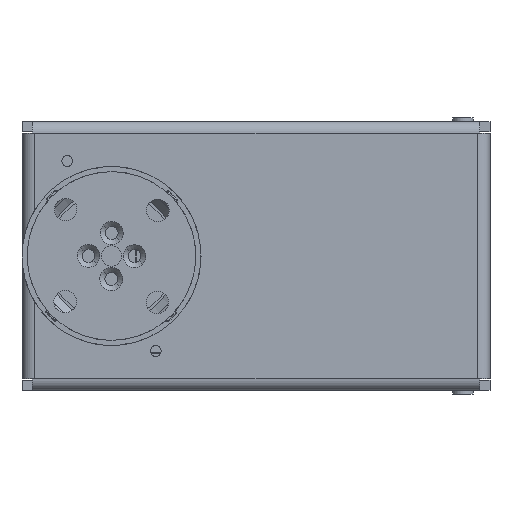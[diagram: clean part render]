
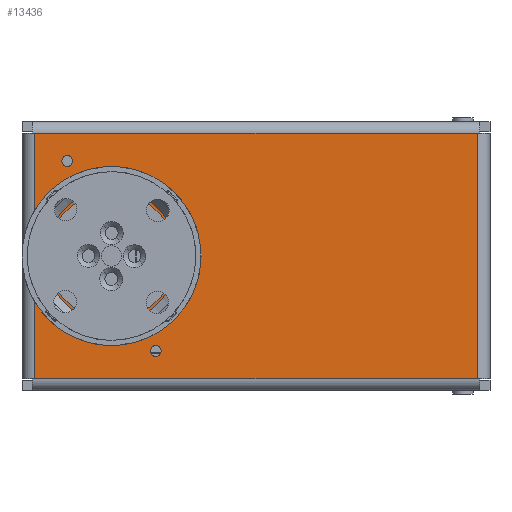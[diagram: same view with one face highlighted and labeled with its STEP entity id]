
A CAD part, front view. The second image highlights one B-rep face of the part: STEP entity #13436.
In plain terms, the highlighted planar face has unit normal (0, -1, 0).
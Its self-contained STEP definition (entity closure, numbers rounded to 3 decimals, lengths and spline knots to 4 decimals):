
#68 = DIRECTION ( 'NONE',  ( 0., 0., 1. ) ) ;
#430 = VECTOR ( 'NONE', #28864, 39.3701 ) ;
#1035 = CARTESIAN_POINT ( 'NONE',  ( 5.6299, -0.1181, -1.8898 ) ) ;
#1169 = DIRECTION ( 'NONE',  ( 0., 0., 1. ) ) ;
#1633 = LINE ( 'NONE', #41555, #42219 ) ;
#1684 = AXIS2_PLACEMENT_3D ( 'NONE', #2005, #22516, #56871 ) ;
#2005 = CARTESIAN_POINT ( 'NONE',  ( -0.6822, -0.1181, 1.4629 ) ) ;
#2506 = EDGE_CURVE ( 'NONE', #28388, #21093, #4943, .T. ) ;
#3972 = EDGE_CURVE ( 'NONE', #54396, #63184, #18047, .T. ) ;
#4943 = CIRCLE ( 'NONE', #24144, 0.9843 ) ;
#5409 = EDGE_CURVE ( 'NONE', #63184, #54396, #61061, .T. ) ;
#7023 = CARTESIAN_POINT ( 'NONE',  ( 0., -0.1181, -0.9843 ) ) ;
#7822 = DIRECTION ( 'NONE',  ( 0., 0., 1. ) ) ;
#9042 = ORIENTED_EDGE ( 'NONE', *, *, #45496, .T. ) ;
#9060 = VECTOR ( 'NONE', #56106, 39.3701 ) ;
#10022 = CARTESIAN_POINT ( 'NONE',  ( 0.6822, -0.1181, -1.5456 ) ) ;
#11432 = EDGE_LOOP ( 'NONE', ( #21468, #56686 ) ) ;
#11613 = EDGE_CURVE ( 'NONE', #62616, #60144, #52218, .T. ) ;
#12542 = VECTOR ( 'NONE', #14020, 39.3701 ) ;
#12666 = DIRECTION ( 'NONE',  ( 0., 0., 1. ) ) ;
#13436 = ADVANCED_FACE ( 'NONE', ( #27100, #62331, #13785, #33373 ), #64328, .F. ) ;
#13785 = FACE_BOUND ( 'NONE', #63598, .T. ) ;
#14020 = DIRECTION ( 'NONE',  ( 1., 0., 0. ) ) ;
#17490 = DIRECTION ( 'NONE',  ( 0., 1., 0. ) ) ;
#17567 = EDGE_LOOP ( 'NONE', ( #9042, #49754 ) ) ;
#17762 = ORIENTED_EDGE ( 'NONE', *, *, #39659, .T. ) ;
#18047 = CIRCLE ( 'NONE', #1684, 0.0827 ) ;
#19041 = CARTESIAN_POINT ( 'NONE',  ( 0., -0.1181, 0.9843 ) ) ;
#19097 = AXIS2_PLACEMENT_3D ( 'NONE', #26065, #61062, #1169 ) ;
#20113 = EDGE_CURVE ( 'NONE', #52049, #39178, #43389, .T. ) ;
#21093 = VERTEX_POINT ( 'NONE', #7023 ) ;
#21468 = ORIENTED_EDGE ( 'NONE', *, *, #3972, .T. ) ;
#22516 = DIRECTION ( 'NONE',  ( 0., 1., 0. ) ) ;
#22528 = CARTESIAN_POINT ( 'NONE',  ( 0.6822, -0.1181, -1.4629 ) ) ;
#22645 = DIRECTION ( 'NONE',  ( 0., 1., 0. ) ) ;
#24064 = CARTESIAN_POINT ( 'NONE',  ( 5.8268, -0.1181, 1.8898 ) ) ;
#24144 = AXIS2_PLACEMENT_3D ( 'NONE', #32269, #22645, #7822 ) ;
#24798 = EDGE_CURVE ( 'NONE', #25377, #38149, #32050, .T. ) ;
#25377 = VERTEX_POINT ( 'NONE', #48042 ) ;
#26065 = CARTESIAN_POINT ( 'NONE',  ( 0., -0.1181, 0. ) ) ;
#26870 = ORIENTED_EDGE ( 'NONE', *, *, #24798, .T. ) ;
#27100 = FACE_BOUND ( 'NONE', #11432, .T. ) ;
#28388 = VERTEX_POINT ( 'NONE', #19041 ) ;
#28665 = DIRECTION ( 'NONE',  ( 0., 1., 0. ) ) ;
#28864 = DIRECTION ( 'NONE',  ( -1., 0., 0. ) ) ;
#31776 = EDGE_LOOP ( 'NONE', ( #17762, #41756, #46403, #26870 ) ) ;
#32050 = LINE ( 'NONE', #44444, #12542 ) ;
#32269 = CARTESIAN_POINT ( 'NONE',  ( 0., -0.1181, 0. ) ) ;
#33146 = DIRECTION ( 'NONE',  ( 0., 1., 0. ) ) ;
#33373 = FACE_OUTER_BOUND ( 'NONE', #31776, .T. ) ;
#36528 = DIRECTION ( 'NONE',  ( 0., 0., -1. ) ) ;
#37944 = CARTESIAN_POINT ( 'NONE',  ( -0.6822, -0.1181, 1.4629 ) ) ;
#38149 = VERTEX_POINT ( 'NONE', #39501 ) ;
#39178 = VERTEX_POINT ( 'NONE', #53343 ) ;
#39409 = DIRECTION ( 'NONE',  ( 0., 1., 0. ) ) ;
#39501 = CARTESIAN_POINT ( 'NONE',  ( 5.6299, -0.1181, -1.8898 ) ) ;
#39659 = EDGE_CURVE ( 'NONE', #38149, #52049, #42602, .T. ) ;
#41555 = CARTESIAN_POINT ( 'NONE',  ( -1.1811, -0.1181, 1.8898 ) ) ;
#41733 = ORIENTED_EDGE ( 'NONE', *, *, #60824, .T. ) ;
#41756 = ORIENTED_EDGE ( 'NONE', *, *, #20113, .T. ) ;
#42219 = VECTOR ( 'NONE', #36528, 39.3701 ) ;
#42602 = LINE ( 'NONE', #1035, #9060 ) ;
#43389 = LINE ( 'NONE', #24064, #430 ) ;
#44444 = CARTESIAN_POINT ( 'NONE',  ( -1.378, -0.1181, -1.8898 ) ) ;
#44838 = CARTESIAN_POINT ( 'NONE',  ( 0., -0.1181, 0. ) ) ;
#44842 = AXIS2_PLACEMENT_3D ( 'NONE', #37944, #33146, #57885 ) ;
#45358 = EDGE_CURVE ( 'NONE', #39178, #25377, #1633, .T. ) ;
#45496 = EDGE_CURVE ( 'NONE', #60144, #62616, #56437, .T. ) ;
#46332 = AXIS2_PLACEMENT_3D ( 'NONE', #48516, #28665, #63656 ) ;
#46403 = ORIENTED_EDGE ( 'NONE', *, *, #45358, .T. ) ;
#47848 = CIRCLE ( 'NONE', #19097, 0.9843 ) ;
#48042 = CARTESIAN_POINT ( 'NONE',  ( -1.1811, -0.1181, -1.8898 ) ) ;
#48423 = CARTESIAN_POINT ( 'NONE',  ( 5.6299, -0.1181, 1.8898 ) ) ;
#48516 = CARTESIAN_POINT ( 'NONE',  ( 0.6822, -0.1181, -1.4629 ) ) ;
#49754 = ORIENTED_EDGE ( 'NONE', *, *, #11613, .T. ) ;
#52049 = VERTEX_POINT ( 'NONE', #48423 ) ;
#52218 = CIRCLE ( 'NONE', #46332, 0.0827 ) ;
#53343 = CARTESIAN_POINT ( 'NONE',  ( -1.1811, -0.1181, 1.8898 ) ) ;
#54396 = VERTEX_POINT ( 'NONE', #59173 ) ;
#55944 = CARTESIAN_POINT ( 'NONE',  ( 0.6822, -0.1181, -1.3803 ) ) ;
#56032 = CARTESIAN_POINT ( 'NONE',  ( -0.6822, -0.1181, 1.3803 ) ) ;
#56106 = DIRECTION ( 'NONE',  ( 0., 0., 1. ) ) ;
#56376 = AXIS2_PLACEMENT_3D ( 'NONE', #22528, #17490, #12666 ) ;
#56437 = CIRCLE ( 'NONE', #56376, 0.0827 ) ;
#56686 = ORIENTED_EDGE ( 'NONE', *, *, #5409, .T. ) ;
#56871 = DIRECTION ( 'NONE',  ( 0., 0., 1. ) ) ;
#57885 = DIRECTION ( 'NONE',  ( 0., 0., 1. ) ) ;
#59173 = CARTESIAN_POINT ( 'NONE',  ( -0.6822, -0.1181, 1.5456 ) ) ;
#60144 = VERTEX_POINT ( 'NONE', #55944 ) ;
#60634 = ORIENTED_EDGE ( 'NONE', *, *, #2506, .T. ) ;
#60824 = EDGE_CURVE ( 'NONE', #21093, #28388, #47848, .T. ) ;
#61061 = CIRCLE ( 'NONE', #44842, 0.0827 ) ;
#61062 = DIRECTION ( 'NONE',  ( 0., 1., 0. ) ) ;
#61129 = AXIS2_PLACEMENT_3D ( 'NONE', #44838, #39409, #68 ) ;
#62331 = FACE_BOUND ( 'NONE', #17567, .T. ) ;
#62616 = VERTEX_POINT ( 'NONE', #10022 ) ;
#63184 = VERTEX_POINT ( 'NONE', #56032 ) ;
#63598 = EDGE_LOOP ( 'NONE', ( #60634, #41733 ) ) ;
#63656 = DIRECTION ( 'NONE',  ( 0., 0., 1. ) ) ;
#64328 = PLANE ( 'NONE',  #61129 ) ;
